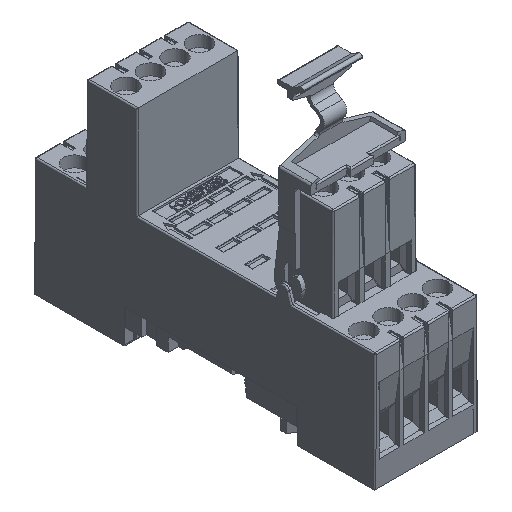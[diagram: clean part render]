
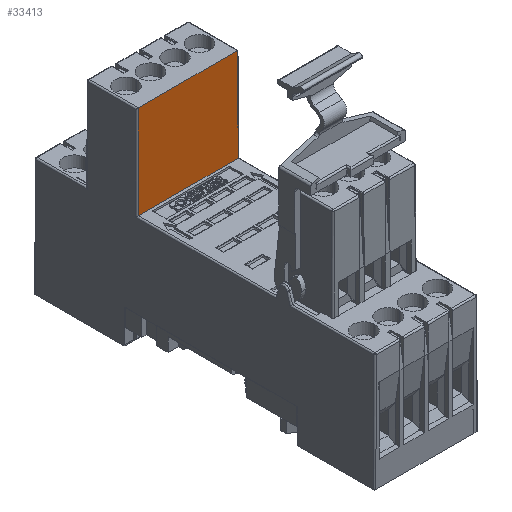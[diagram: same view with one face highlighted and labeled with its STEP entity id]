
A CAD part, isometric view. The second image highlights one B-rep face of the part: STEP entity #33413.
In plain terms, the highlighted planar face has unit normal (0, -1, 0.005).
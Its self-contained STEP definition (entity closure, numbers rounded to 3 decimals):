
#2231 = VECTOR ( 'NONE', #33075, 1000. ) ;
#2857 = EDGE_CURVE ( 'NONE', #50942, #36896, #49754, .T. ) ;
#3200 = CARTESIAN_POINT ( 'NONE',  ( 0.15, 52.4, 26. ) ) ;
#5761 = CARTESIAN_POINT ( 'NONE',  ( 0.15, 52.5, 46.5 ) ) ;
#6426 = ORIENTED_EDGE ( 'NONE', *, *, #17768, .F. ) ;
#6615 = AXIS2_PLACEMENT_3D ( 'NONE', #3200, #21290, #35245 ) ;
#10046 = EDGE_LOOP ( 'NONE', ( #6426, #11305, #52494, #29422 ) ) ;
#11305 = ORIENTED_EDGE ( 'NONE', *, *, #25690, .T. ) ;
#12374 = CARTESIAN_POINT ( 'NONE',  ( 0.5, 52.5, 46.5 ) ) ;
#12830 = VERTEX_POINT ( 'NONE', #55459 ) ;
#13119 = CARTESIAN_POINT ( 'NONE',  ( 22.388, 52.4, 26. ) ) ;
#13898 = VECTOR ( 'NONE', #28804, 1000. ) ;
#17768 = EDGE_CURVE ( 'NONE', #12830, #25806, #55889, .T. ) ;
#18607 = VECTOR ( 'NONE', #55441, 1000. ) ;
#20169 = CARTESIAN_POINT ( 'NONE',  ( 0.412, 52.4, 26. ) ) ;
#21290 = DIRECTION ( 'NONE',  ( 0., 1., -0.005 ) ) ;
#22794 = EDGE_CURVE ( 'NONE', #50942, #25806, #51007, .T. ) ;
#25690 = EDGE_CURVE ( 'NONE', #12830, #36896, #46185, .T. ) ;
#25806 = VERTEX_POINT ( 'NONE', #13119 ) ;
#28653 = CARTESIAN_POINT ( 'NONE',  ( 0.15, 52.4, 26. ) ) ;
#28804 = DIRECTION ( 'NONE',  ( 0.004, -0.005, -1. ) ) ;
#29422 = ORIENTED_EDGE ( 'NONE', *, *, #22794, .T. ) ;
#32175 = DIRECTION ( 'NONE',  ( 0.004, 0.005, 1. ) ) ;
#32403 = CARTESIAN_POINT ( 'NONE',  ( 22.302, 52.498, 46.102 ) ) ;
#33075 = DIRECTION ( 'NONE',  ( -1., 0., 0. ) ) ;
#33413 = ADVANCED_FACE ( 'NONE', ( #57860 ), #57270, .F. ) ;
#35245 = DIRECTION ( 'NONE',  ( 0., -0.005, -1. ) ) ;
#36896 = VERTEX_POINT ( 'NONE', #12374 ) ;
#41064 = CARTESIAN_POINT ( 'NONE',  ( 0.412, 52.4, 25.999 ) ) ;
#46185 = LINE ( 'NONE', #5761, #2231 ) ;
#49754 = LINE ( 'NONE', #41064, #54627 ) ;
#50942 = VERTEX_POINT ( 'NONE', #20169 ) ;
#51007 = LINE ( 'NONE', #28653, #18607 ) ;
#52494 = ORIENTED_EDGE ( 'NONE', *, *, #2857, .F. ) ;
#54627 = VECTOR ( 'NONE', #32175, 1000. ) ;
#55441 = DIRECTION ( 'NONE',  ( 1., 0., 0. ) ) ;
#55459 = CARTESIAN_POINT ( 'NONE',  ( 22.3, 52.5, 46.5 ) ) ;
#55889 = LINE ( 'NONE', #32403, #13898 ) ;
#57270 = PLANE ( 'NONE',  #6615 ) ;
#57860 = FACE_OUTER_BOUND ( 'NONE', #10046, .T. ) ;
